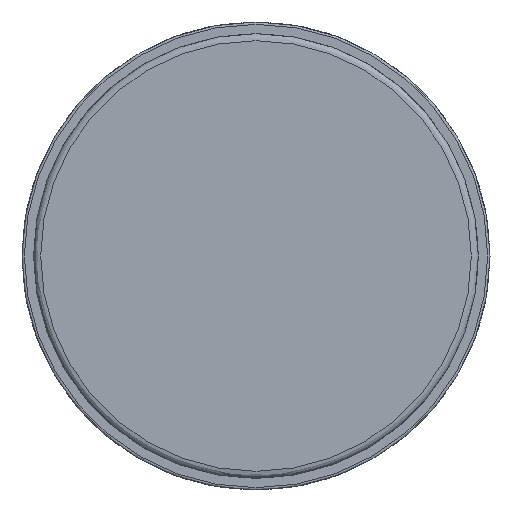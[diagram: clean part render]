
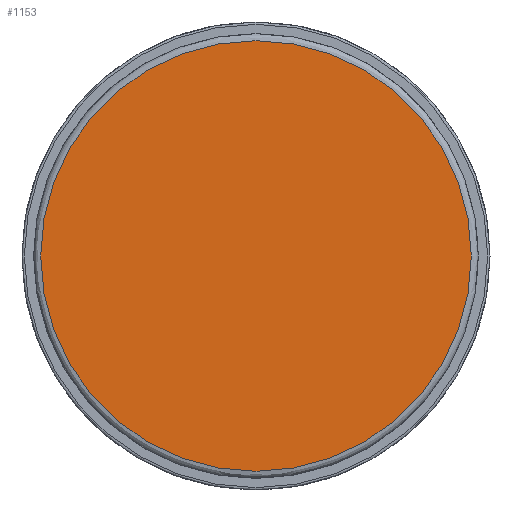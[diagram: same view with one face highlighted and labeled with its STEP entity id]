
A CAD part, left-side view. The second image highlights one B-rep face of the part: STEP entity #1153.
In plain terms, the highlighted planar face has unit normal (-1, 0, 0).
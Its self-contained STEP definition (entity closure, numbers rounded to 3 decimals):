
#1128=CARTESIAN_POINT('',(-528.636,-431.109,-57.));
#1129=DIRECTION('',(-1.0,0.0,0.0));
#1130=DIRECTION('',(0.0,-1.0,0.0));
#1131=AXIS2_PLACEMENT_3D('',#1128,#1129,#1130);
#1132=PLANE('',#1131);
#1133=CARTESIAN_POINT('',(-528.636,-534.109,0.0));
#1134=VERTEX_POINT('',#1133);
#1135=CARTESIAN_POINT('',(-528.636,-442.109,0.0));
#1136=VERTEX_POINT('',#1135);
#1137=CARTESIAN_POINT('',(-528.636,-488.109,0.0));
#1138=DIRECTION('',(-1.0,0.0,0.0));
#1139=DIRECTION('',(0.0,-1.0,0.0));
#1140=AXIS2_PLACEMENT_3D('',#1137,#1138,#1139);
#1141=CIRCLE('',#1140,46.);
#1142=EDGE_CURVE('',#1134,#1136,#1141,.T.);
#1143=ORIENTED_EDGE('',*,*,#1142,.T.);
#1144=CARTESIAN_POINT('',(-528.636,-488.109,0.0));
#1145=DIRECTION('',(-1.0,0.0,0.0));
#1146=DIRECTION('',(0.0,-1.0,0.0));
#1147=AXIS2_PLACEMENT_3D('',#1144,#1145,#1146);
#1148=CIRCLE('',#1147,46.);
#1149=EDGE_CURVE('',#1136,#1134,#1148,.T.);
#1150=ORIENTED_EDGE('',*,*,#1149,.T.);
#1151=EDGE_LOOP('',(#1143,#1150));
#1152=FACE_OUTER_BOUND('',#1151,.T.);
#1153=ADVANCED_FACE('',(#1152),#1132,.T.);
